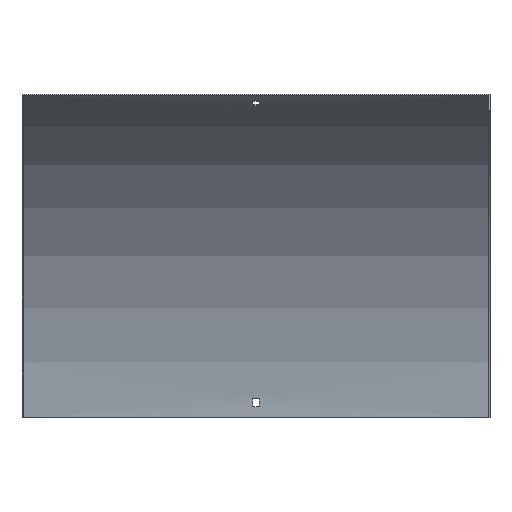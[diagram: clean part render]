
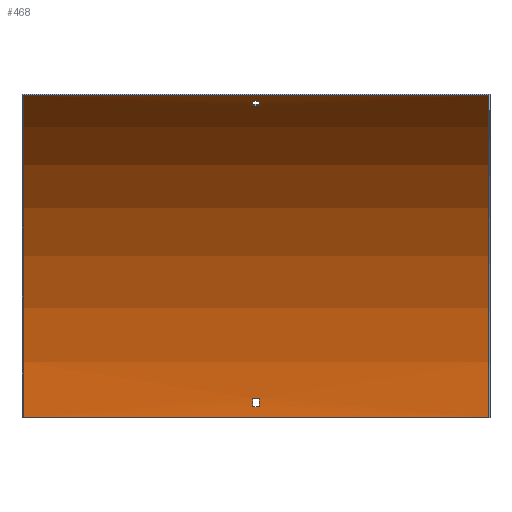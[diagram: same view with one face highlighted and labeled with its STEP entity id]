
A CAD part, front view. The second image highlights one B-rep face of the part: STEP entity #468.
In plain terms, the highlighted cylindrical face has radius 400 mm (diameter 800 mm), a partial arc.
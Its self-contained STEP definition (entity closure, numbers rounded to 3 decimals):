
#1 = ORIENTED_EDGE ( 'NONE', *, *, #600, .F. ) ;
#2 = FACE_BOUND ( 'NONE', #28, .T. ) ;
#3 = CARTESIAN_POINT ( 'NONE',  ( 251.5, -1.68, 12. ) ) ;
#7 = EDGE_CURVE ( 'NONE', #115, #181, #356, .T. ) ;
#15 = ORIENTED_EDGE ( 'NONE', *, *, #579, .T. ) ;
#22 = CARTESIAN_POINT ( 'NONE',  ( -3.25, -183.589, 335.432 ) ) ;
#24 = EDGE_CURVE ( 'NONE', #452, #319, #537, .T. ) ;
#28 = EDGE_LOOP ( 'NONE', ( #35, #214, #39, #123 ) ) ;
#31 = VECTOR ( 'NONE', #78, 1000. ) ;
#35 = ORIENTED_EDGE ( 'NONE', *, *, #586, .T. ) ;
#39 = ORIENTED_EDGE ( 'NONE', *, *, #7, .T. ) ;
#40 = CIRCLE ( 'NONE', #461, 400. ) ;
#43 = DIRECTION ( 'NONE',  ( -1., 0., 0. ) ) ;
#45 = VECTOR ( 'NONE', #594, 1000. ) ;
#62 = EDGE_LOOP ( 'NONE', ( #360, #597, #199, #15 ) ) ;
#69 = LINE ( 'NONE', #444, #341 ) ;
#75 = CARTESIAN_POINT ( 'NONE',  ( 251.5, -191.198, 340.254 ) ) ;
#78 = DIRECTION ( 'NONE',  ( -1., 0., 0. ) ) ;
#93 = VECTOR ( 'NONE', #242, 1000. ) ;
#95 = VERTEX_POINT ( 'NONE', #256 ) ;
#97 = DIRECTION ( 'NONE',  ( 0., 1., 0. ) ) ;
#99 = DIRECTION ( 'NONE',  ( 0., 0., 1. ) ) ;
#105 = DIRECTION ( 'NONE',  ( 1., 0., 0. ) ) ;
#115 = VERTEX_POINT ( 'NONE', #347 ) ;
#118 = DIRECTION ( 'NONE',  ( 1., 0., 0. ) ) ;
#120 = CARTESIAN_POINT ( 'NONE',  ( -250., -1.5, 0. ) ) ;
#123 = ORIENTED_EDGE ( 'NONE', *, *, #607, .T. ) ;
#125 = VERTEX_POINT ( 'NONE', #475 ) ;
#135 = DIRECTION ( 'NONE',  ( 1., 0., 0. ) ) ;
#139 = AXIS2_PLACEMENT_3D ( 'NONE', #414, #516, #97 ) ;
#141 = DIRECTION ( 'NONE',  ( 0., 0., -1. ) ) ;
#143 = CARTESIAN_POINT ( 'NONE',  ( 250., -1.5, 0. ) ) ;
#154 = DIRECTION ( 'NONE',  ( 0., 0., -1. ) ) ;
#166 = CARTESIAN_POINT ( 'NONE',  ( 3.25, -401.5, 0. ) ) ;
#170 = VERTEX_POINT ( 'NONE', #436 ) ;
#181 = VERTEX_POINT ( 'NONE', #332 ) ;
#184 = FACE_BOUND ( 'NONE', #577, .T. ) ;
#193 = CARTESIAN_POINT ( 'NONE',  ( -250., -401.5, 0. ) ) ;
#199 = ORIENTED_EDGE ( 'NONE', *, *, #311, .T. ) ;
#202 = LINE ( 'NONE', #3, #93 ) ;
#214 = ORIENTED_EDGE ( 'NONE', *, *, #221, .T. ) ;
#215 = EDGE_CURVE ( 'NONE', #125, #525, #202, .T. ) ;
#218 = CARTESIAN_POINT ( 'NONE',  ( -3.25, -401.5, 0. ) ) ;
#221 = EDGE_CURVE ( 'NONE', #593, #115, #512, .T. ) ;
#230 = CARTESIAN_POINT ( 'NONE',  ( 3.25, -401.5, 0. ) ) ;
#236 = AXIS2_PLACEMENT_3D ( 'NONE', #230, #602, #99 ) ;
#242 = DIRECTION ( 'NONE',  ( 1., 0., 0. ) ) ;
#256 = CARTESIAN_POINT ( 'NONE',  ( 250., -201.5, 346.41 ) ) ;
#272 = ORIENTED_EDGE ( 'NONE', *, *, #363, .F. ) ;
#284 = AXIS2_PLACEMENT_3D ( 'NONE', #357, #396, #154 ) ;
#310 = CARTESIAN_POINT ( 'NONE',  ( 250., -1.5, 0. ) ) ;
#311 = EDGE_CURVE ( 'NONE', #452, #95, #460, .T. ) ;
#318 = VERTEX_POINT ( 'NONE', #540 ) ;
#319 = VERTEX_POINT ( 'NONE', #120 ) ;
#328 = CARTESIAN_POINT ( 'NONE',  ( 3.25, -1.68, 12. ) ) ;
#332 = CARTESIAN_POINT ( 'NONE',  ( 3.25, -191.198, 340.254 ) ) ;
#341 = VECTOR ( 'NONE', #439, 1000. ) ;
#347 = CARTESIAN_POINT ( 'NONE',  ( -3.25, -191.198, 340.254 ) ) ;
#350 = CARTESIAN_POINT ( 'NONE',  ( 250., -201.5, 346.41 ) ) ;
#351 = CIRCLE ( 'NONE', #236, 400. ) ;
#356 = LINE ( 'NONE', #75, #510 ) ;
#357 = CARTESIAN_POINT ( 'NONE',  ( 250., -401.5, 0. ) ) ;
#360 = ORIENTED_EDGE ( 'NONE', *, *, #441, .F. ) ;
#363 = EDGE_CURVE ( 'NONE', #445, #170, #409, .T. ) ;
#366 = ORIENTED_EDGE ( 'NONE', *, *, #598, .F. ) ;
#396 = DIRECTION ( 'NONE',  ( 1., 0., 0. ) ) ;
#401 = VERTEX_POINT ( 'NONE', #588 ) ;
#407 = AXIS2_PLACEMENT_3D ( 'NONE', #517, #43, #421 ) ;
#409 = LINE ( 'NONE', #599, #45 ) ;
#414 = CARTESIAN_POINT ( 'NONE',  ( -3.25, -401.5, 0. ) ) ;
#415 = FACE_OUTER_BOUND ( 'NONE', #62, .T. ) ;
#417 = CYLINDRICAL_SURFACE ( 'NONE', #407, 400. ) ;
#419 = CIRCLE ( 'NONE', #505, 400. ) ;
#421 = DIRECTION ( 'NONE',  ( 0., 0., 1. ) ) ;
#425 = ORIENTED_EDGE ( 'NONE', *, *, #215, .F. ) ;
#436 = CARTESIAN_POINT ( 'NONE',  ( -3.25, -2.052, 21. ) ) ;
#439 = DIRECTION ( 'NONE',  ( -1., 0., 0. ) ) ;
#441 = EDGE_CURVE ( 'NONE', #319, #401, #419, .T. ) ;
#444 = CARTESIAN_POINT ( 'NONE',  ( 251.5, -183.589, 335.432 ) ) ;
#445 = VERTEX_POINT ( 'NONE', #601 ) ;
#452 = VERTEX_POINT ( 'NONE', #143 ) ;
#460 = CIRCLE ( 'NONE', #284, 400. ) ;
#461 = AXIS2_PLACEMENT_3D ( 'NONE', #166, #135, #592 ) ;
#464 = DIRECTION ( 'NONE',  ( 0., 0., 1. ) ) ;
#468 = ADVANCED_FACE ( 'NONE', ( #184, #415, #2 ), #417, .F. ) ;
#475 = CARTESIAN_POINT ( 'NONE',  ( -3.25, -1.68, 12. ) ) ;
#480 = DIRECTION ( 'NONE',  ( -1., 0., 0. ) ) ;
#491 = DIRECTION ( 'NONE',  ( -1., 0., 0. ) ) ;
#505 = AXIS2_PLACEMENT_3D ( 'NONE', #193, #105, #141 ) ;
#510 = VECTOR ( 'NONE', #118, 1000. ) ;
#512 = CIRCLE ( 'NONE', #139, 400. ) ;
#516 = DIRECTION ( 'NONE',  ( 1., 0., 0. ) ) ;
#517 = CARTESIAN_POINT ( 'NONE',  ( 251.5, -401.5, 0. ) ) ;
#525 = VERTEX_POINT ( 'NONE', #328 ) ;
#537 = LINE ( 'NONE', #310, #556 ) ;
#540 = CARTESIAN_POINT ( 'NONE',  ( 3.25, -183.589, 335.432 ) ) ;
#543 = AXIS2_PLACEMENT_3D ( 'NONE', #218, #480, #464 ) ;
#550 = CIRCLE ( 'NONE', #543, 400. ) ;
#556 = VECTOR ( 'NONE', #491, 1000. ) ;
#575 = LINE ( 'NONE', #350, #31 ) ;
#577 = EDGE_LOOP ( 'NONE', ( #1, #272, #366, #425 ) ) ;
#579 = EDGE_CURVE ( 'NONE', #95, #401, #575, .T. ) ;
#586 = EDGE_CURVE ( 'NONE', #318, #593, #69, .T. ) ;
#588 = CARTESIAN_POINT ( 'NONE',  ( -250., -201.5, 346.41 ) ) ;
#592 = DIRECTION ( 'NONE',  ( 0., 0., -1. ) ) ;
#593 = VERTEX_POINT ( 'NONE', #22 ) ;
#594 = DIRECTION ( 'NONE',  ( -1., 0., 0. ) ) ;
#597 = ORIENTED_EDGE ( 'NONE', *, *, #24, .F. ) ;
#598 = EDGE_CURVE ( 'NONE', #525, #445, #40, .T. ) ;
#599 = CARTESIAN_POINT ( 'NONE',  ( 251.5, -2.052, 21. ) ) ;
#600 = EDGE_CURVE ( 'NONE', #170, #125, #550, .T. ) ;
#601 = CARTESIAN_POINT ( 'NONE',  ( 3.25, -2.052, 21. ) ) ;
#602 = DIRECTION ( 'NONE',  ( -1., 0., 0. ) ) ;
#607 = EDGE_CURVE ( 'NONE', #181, #318, #351, .T. ) ;
